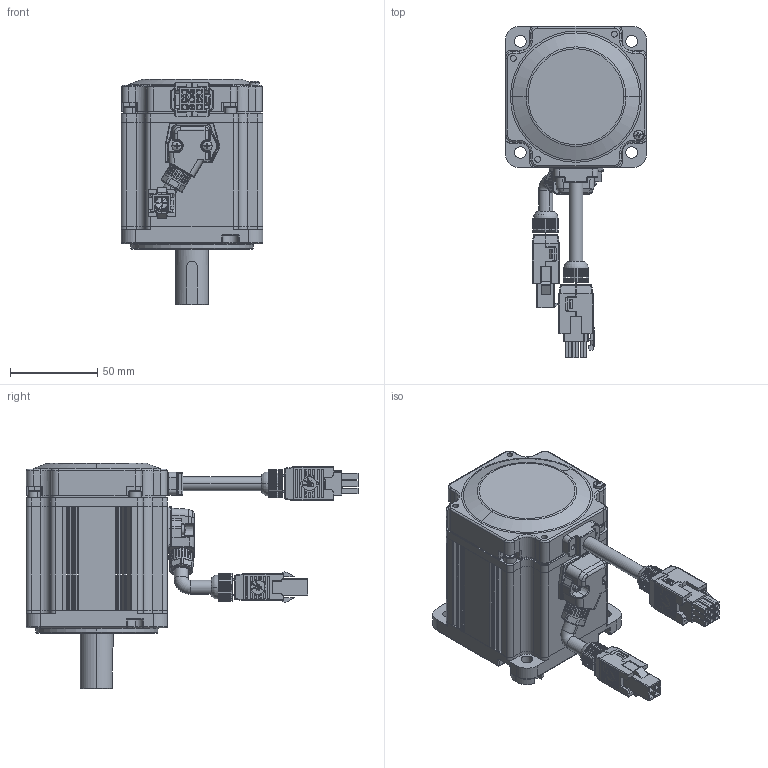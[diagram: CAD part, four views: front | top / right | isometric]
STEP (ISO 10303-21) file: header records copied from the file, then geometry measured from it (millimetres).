
FILE_DESCRIPTION (( 'STEP AP214' ), '1' );
FILE_NAME ('750W都寞萇儂.STEP', '2023-05-07T07:41:01', ( 'Windows 蚚誧' ), ( 'Organization' ), 'SwSTEP 2.0', 'SolidWorks 2021', '' );
FILE_SCHEMA (( 'AUTOMOTIVE_DESIGN' ));
Length unit declared in the file: millimetre
Products named in the file (1): 750W都寞萇儂
Bounding box: 81 x 190.05 x 129.3 mm (x, y, z)
Surface area: 76732.3 mm2 (no closed solid volume)
Topology: 0 solids, 82 shells, 1781 faces, 6649 edges, 4730 vertices
Faces by surface type: plane 778, cylinder 702, torus 195, sphere 45, bspline 38, cone 23
Entity records: 95212 total; most frequent: CARTESIAN_POINT 21064, DIRECTION 11442, ORIENTED_EDGE 10015, EDGE_CURVE 6617, VERTEX_POINT 4722, VECTOR 4012, LINE 4012, AXIS2_PLACEMENT_3D 3715
